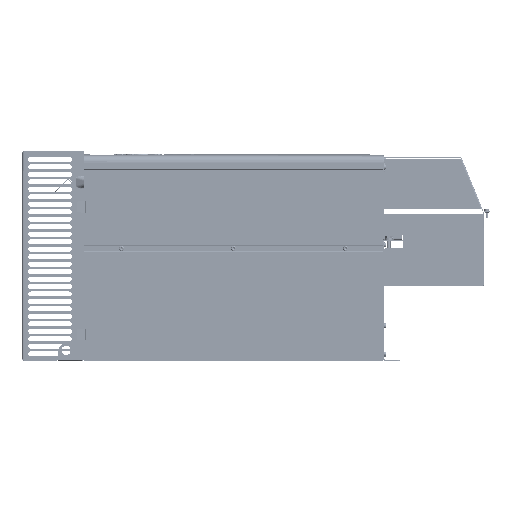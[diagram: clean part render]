
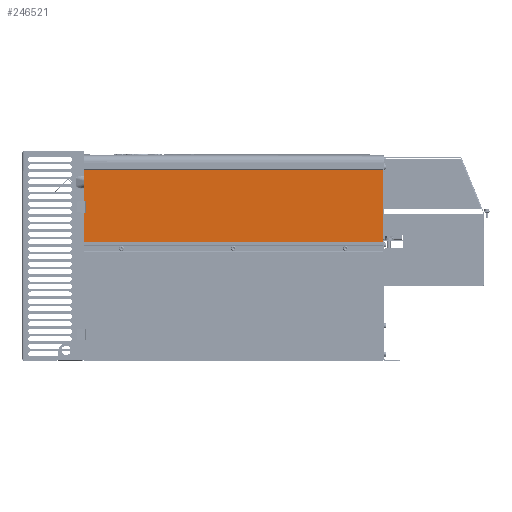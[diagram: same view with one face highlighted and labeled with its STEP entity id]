
A CAD part, left-side view. The second image highlights one B-rep face of the part: STEP entity #246521.
In plain terms, the highlighted planar face has unit normal (-1, 0, 0).
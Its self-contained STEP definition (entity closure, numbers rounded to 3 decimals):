
#8743=DIRECTION('',(0.,0.,-1.));
#8744=VECTOR('',#8743,12.);
#8745=CARTESIAN_POINT('',(-151.5,236.875,255.5));
#8746=LINE('',#8745,#8744);
#25926=DIRECTION('',(0.,-1.,0.));
#25927=VECTOR('',#25926,480.005);
#25928=CARTESIAN_POINT('',(-151.5,236.875,191.6));
#25929=LINE('',#25928,#25927);
#25933=DIRECTION('',(0.,0.,-1.));
#25934=VECTOR('',#25933,51.9);
#25935=CARTESIAN_POINT('',(-151.5,236.875,243.5));
#25936=LINE('',#25935,#25934);
#25940=DIRECTION('',(0.,0.,-1.));
#25941=VECTOR('',#25940,51.5);
#25942=CARTESIAN_POINT('',(-151.5,236.875,307.));
#25943=LINE('',#25942,#25941);
#25947=DIRECTION('',(0.,1.,0.));
#25948=VECTOR('',#25947,480.005);
#25949=CARTESIAN_POINT('',(-151.5,-243.13,307.));
#25950=LINE('',#25949,#25948);
#25954=DIRECTION('',(0.,0.,-1.));
#25955=VECTOR('',#25954,112.5);
#25956=CARTESIAN_POINT('',(-151.5,-243.13,307.));
#25957=LINE('',#25956,#25955);
#25961=DIRECTION('',(0.,0.,-1.));
#25962=VECTOR('',#25961,0.1);
#25963=CARTESIAN_POINT('',(-151.5,-243.13,191.7));
#25964=LINE('',#25963,#25962);
#42733=DIRECTION('',(0.,0.,1.));
#42734=VECTOR('',#42733,2.8);
#42735=CARTESIAN_POINT('',(-151.5,-243.13,191.7));
#42736=LINE('',#42735,#42734);
#203453=CARTESIAN_POINT('',(-151.5,236.875,243.5));
#203454=VERTEX_POINT('',#203453);
#203499=CARTESIAN_POINT('',(-151.5,236.875,255.5));
#203500=VERTEX_POINT('',#203499);
#204144=CARTESIAN_POINT('',(-151.5,-243.13,194.5));
#204146=VERTEX_POINT('',#204144);
#207344=CARTESIAN_POINT('',(-151.5,-243.13,307.));
#207345=CARTESIAN_POINT('',(-151.5,236.875,307.));
#207346=VERTEX_POINT('',#207344);
#207347=VERTEX_POINT('',#207345);
#207352=CARTESIAN_POINT('',(-151.5,236.875,191.6));
#207353=CARTESIAN_POINT('',(-151.5,-243.13,191.6));
#207354=VERTEX_POINT('',#207352);
#207355=VERTEX_POINT('',#207353);
#218034=CARTESIAN_POINT('',(-151.5,-243.13,191.7));
#218036=VERTEX_POINT('',#218034);
#246500=CARTESIAN_POINT('',(-151.5,236.875,318.2));
#246501=DIRECTION('',(-1.,0.,0.));
#246502=DIRECTION('',(0.,0.,-1.));
#246503=AXIS2_PLACEMENT_3D('',#246500,#246501,#246502);
#246504=PLANE('',#246503);
#246506=ORIENTED_EDGE('',*,*,#246505,.F.);
#246508=ORIENTED_EDGE('',*,*,#246507,.F.);
#246509=ORIENTED_EDGE('',*,*,#227840,.F.);
#246511=ORIENTED_EDGE('',*,*,#246510,.F.);
#246513=ORIENTED_EDGE('',*,*,#246512,.F.);
#246515=ORIENTED_EDGE('',*,*,#246514,.T.);
#246517=ORIENTED_EDGE('',*,*,#246516,.F.);
#246518=ORIENTED_EDGE('',*,*,#244341,.T.);
#246519=EDGE_LOOP('',(#246506,#246508,#246509,#246511,#246513,#246515,#246517,
#246518));
#246520=FACE_OUTER_BOUND('',#246519,.F.);
#246521=ADVANCED_FACE('',(#246520),#246504,.T.);
#227840=EDGE_CURVE('',#203500,#203454,#8746,.T.);
#244341=EDGE_CURVE('',#218036,#207355,#25964,.T.);
#246505=EDGE_CURVE('',#207354,#207355,#25929,.T.);
#246507=EDGE_CURVE('',#203454,#207354,#25936,.T.);
#246510=EDGE_CURVE('',#207347,#203500,#25943,.T.);
#246512=EDGE_CURVE('',#207346,#207347,#25950,.T.);
#246514=EDGE_CURVE('',#207346,#204146,#25957,.T.);
#246516=EDGE_CURVE('',#218036,#204146,#42736,.T.);
